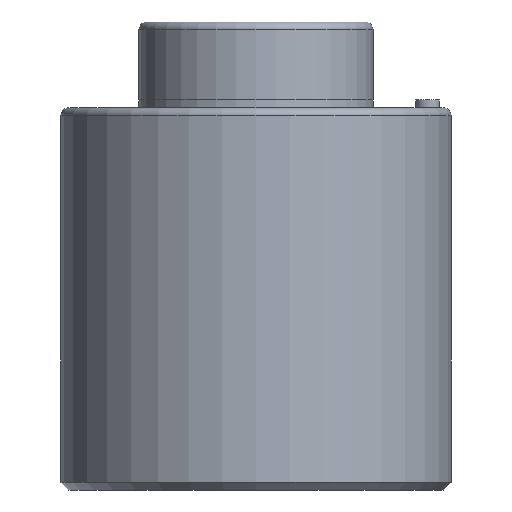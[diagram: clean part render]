
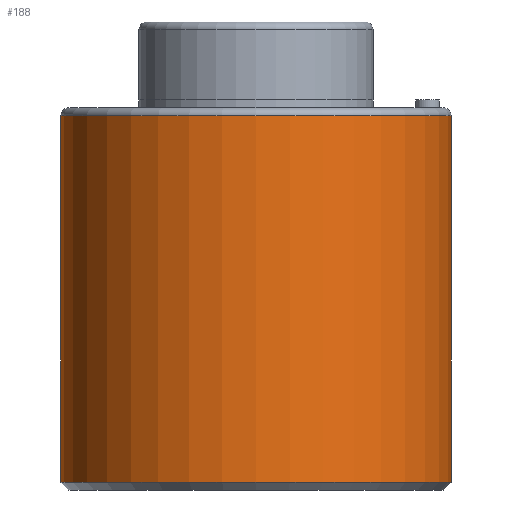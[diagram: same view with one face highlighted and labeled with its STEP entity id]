
A CAD part, front view. The second image highlights one B-rep face of the part: STEP entity #188.
In plain terms, the highlighted cylindrical face has radius 25 mm (diameter 50 mm), a partial arc.
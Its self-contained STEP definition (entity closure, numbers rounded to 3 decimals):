
#124=CYLINDRICAL_SURFACE('',#571,25.);
#140=LINE('',#827,#162);
#141=LINE('',#831,#163);
#162=VECTOR('',#672,1.);
#163=VECTOR('',#675,1.);
#188=ADVANCED_FACE('',(#224),#124,.T.);
#224=FACE_OUTER_BOUND('',#251,.T.);
#251=EDGE_LOOP('',(#313,#314,#315,#316));
#313=ORIENTED_EDGE('',*,*,#463,.T.);
#314=ORIENTED_EDGE('',*,*,#464,.F.);
#315=ORIENTED_EDGE('',*,*,#465,.F.);
#316=ORIENTED_EDGE('',*,*,#458,.T.);
#414=VERTEX_POINT('',#817);
#415=VERTEX_POINT('',#819);
#417=VERTEX_POINT('',#828);
#418=VERTEX_POINT('',#830);
#458=EDGE_CURVE('',#415,#414,#516,.T.);
#463=EDGE_CURVE('',#414,#417,#140,.T.);
#464=EDGE_CURVE('',#418,#417,#521,.T.);
#465=EDGE_CURVE('',#415,#418,#141,.T.);
#516=CIRCLE('',#563,25.);
#521=CIRCLE('',#570,25.);
#563=AXIS2_PLACEMENT_3D('',#818,#658,#659);
#570=AXIS2_PLACEMENT_3D('',#829,#673,#674);
#571=AXIS2_PLACEMENT_3D('',#832,#676,#677);
#658=DIRECTION('',(0.,0.,-1.));
#659=DIRECTION('',(0.,1.,0.));
#672=DIRECTION('',(0.,0.,-1.));
#673=DIRECTION('',(0.,0.,-1.));
#674=DIRECTION('',(0.,1.,0.));
#675=DIRECTION('',(0.,0.,-1.));
#676=DIRECTION('',(0.,0.,-1.));
#677=DIRECTION('',(0.,-1.,0.));
#817=CARTESIAN_POINT('',(-25.,0.,48.));
#818=CARTESIAN_POINT('',(0.,0.,48.));
#819=CARTESIAN_POINT('',(25.,0.,48.));
#827=CARTESIAN_POINT('',(-25.,0.,1.));
#828=CARTESIAN_POINT('',(-25.,0.,1.));
#829=CARTESIAN_POINT('',(0.,0.,1.));
#830=CARTESIAN_POINT('',(25.,0.,1.));
#831=CARTESIAN_POINT('',(25.,0.,1.));
#832=CARTESIAN_POINT('',(0.,0.,48.));
